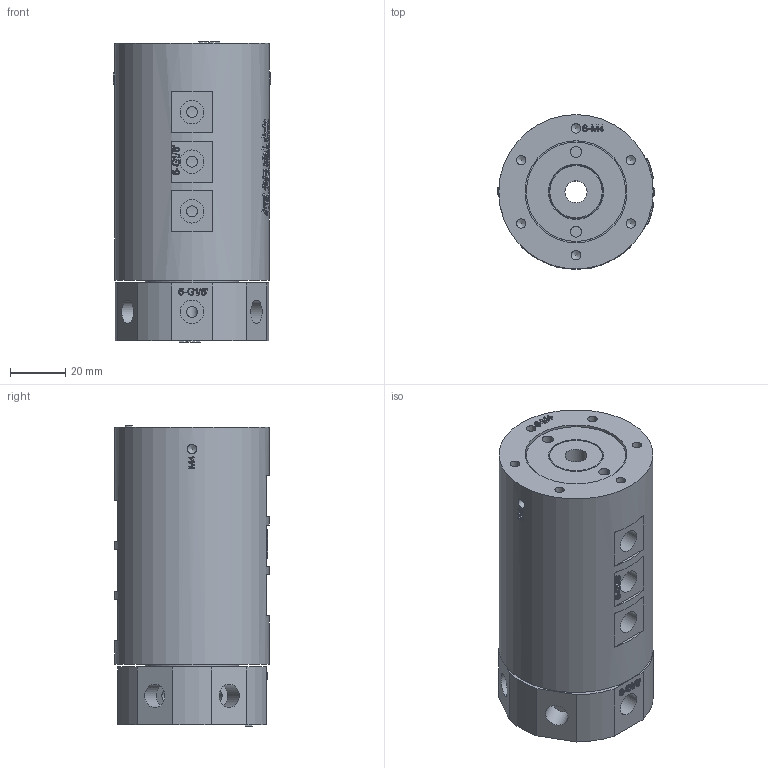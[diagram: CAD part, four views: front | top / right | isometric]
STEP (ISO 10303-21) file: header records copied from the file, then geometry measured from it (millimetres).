
FILE_DESCRIPTION(/* description */ (''),/* implementation_level */ '2;1');
FILE_NAME(/* name */ 'HQ0601.stp',/* time_stamp */ '2025-02-14T11:14:21+08:00',/* author */ (''),/* organization */ (''),/* preprocessor_version */ 'ST-DEVELOPER v16.7',/* originating_system */ 'SIEMENS PLM Software NX 12.0',/* authorisation */ '');
FILE_SCHEMA (('AUTOMOTIVE_DESIGN { 1 0 10303 214 3 1 1 1 }'));
Length unit declared in the file: millimetre
Products named in the file (1): HX0540E8A2D8nfqp
Bounding box: 57 x 56 x 109 mm (x, y, z)
Volume: 246276.8 mm3; surface area: 40712.8 mm2
Topology: 1 solids, 2 shells, 1125 faces, 3021 edges, 2028 vertices
Faces by surface type: extrusion 520, plane 446, cylinder 92, bspline 52, cone 15
Full cylindrical faces by diameter (mm): 3.4 x12, 4 x20, 4.1 x6, 4.2 x6, 8 x1, 8.5 x12, 18 x1, 19 x1, 29 x1, 34 x1, 36 x1, 37 x1, 56 x1
Entity records: 42254 total; most frequent: CARTESIAN_POINT 18739, ORIENTED_EDGE 5748, EDGE_CURVE 2874, DIRECTION 2706, B_SPLINE_CURVE_WITH_KNOTS 2628, VERTEX_POINT 1978, EDGE_LOOP 1336, ADVANCED_FACE 1122
